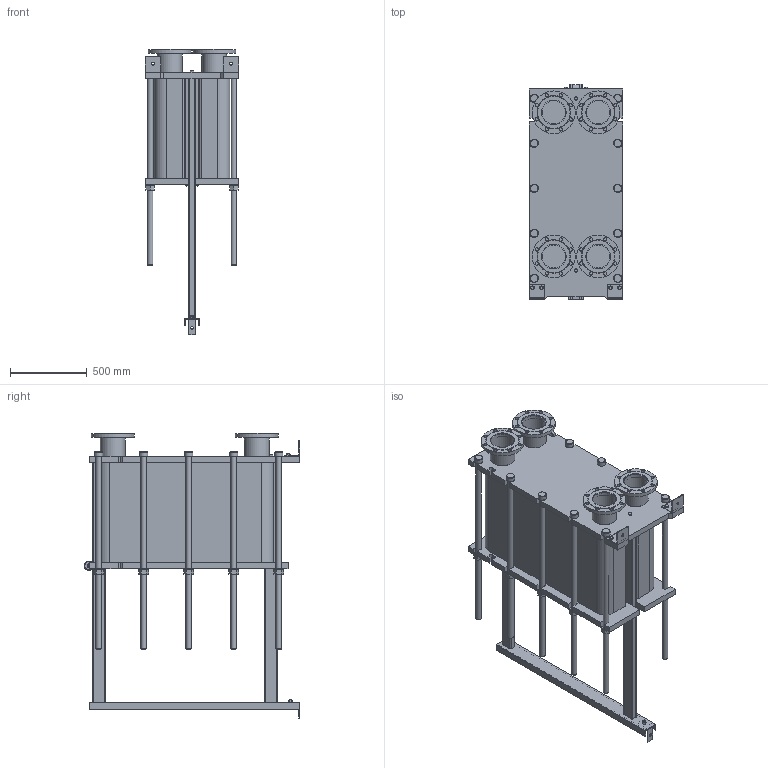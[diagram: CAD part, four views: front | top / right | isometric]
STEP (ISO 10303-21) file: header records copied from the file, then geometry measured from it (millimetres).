
FILE_DESCRIPTION(/* description */ (''),/* implementation_level */ '2;1');
FILE_NAME(/* name */ 'C:\Users\zhuro\Desktop\ENCO\TO\ЭН-041\ЭН-0,5-041-190-1.stp',/* time_stamp */ '2022-06-06T11:05:44+03:00',/* author */ ('zhuro'),/* organization */ (''),/* preprocessor_version */ 'ST-DEVELOPER v18.1',/* originating_system */ 'Autodesk Inventor 2022',/* authorisation */ '');
FILE_SCHEMA (('AUTOMOTIVE_DESIGN { 1 0 10303 214 3 1 1 }'));
Length unit declared in the file: millimetre
Products named in the file (1): ЭН-0,5-041-190-1
Bounding box: 610 x 1406.5 x 1865 mm (x, y, z)
Volume: 455475318.4 mm3; surface area: 11008937.3 mm2
Topology: 52 solids, 52 shells, 711 faces, 1696 edges, 1094 vertices
Faces by surface type: plane 487, cylinder 177, cone 41, torus 6
Full cylindrical faces by diameter (mm): 8 x4, 10 x2, 16 x8, 18 x3, 22 x32, 36 x24, 50 x1, 54 x10, 60 x12, 151 x4, 161 x8, 280 x4
Entity records: 22667 total; most frequent: CARTESIAN_POINT 5230, DIRECTION 3644, ORIENTED_EDGE 3392, EDGE_CURVE 1696, AXIS2_PLACEMENT_3D 1272, LINE 1100, VECTOR 1100, VERTEX_POINT 1094
